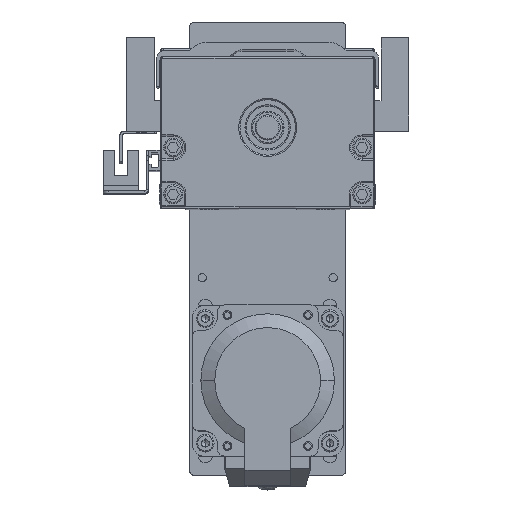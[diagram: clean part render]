
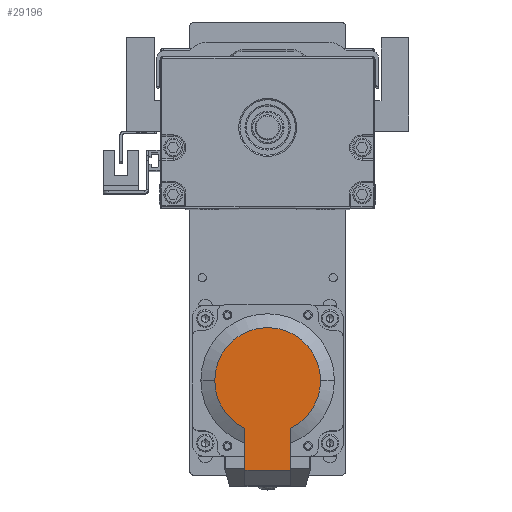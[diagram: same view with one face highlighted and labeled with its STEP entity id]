
A CAD part, top view. The second image highlights one B-rep face of the part: STEP entity #29196.
In plain terms, the highlighted planar face has unit normal (0, 0, 1).
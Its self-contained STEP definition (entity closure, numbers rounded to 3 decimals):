
#621 = CARTESIAN_POINT ( 'NONE',  ( 85.777, 12.277, 500.168 ) ) ;
#2650 = DIRECTION ( 'NONE',  ( 0., 1., 0. ) ) ;
#3344 = DIRECTION ( 'NONE',  ( 0., 1., 0. ) ) ;
#4447 = EDGE_LOOP ( 'NONE', ( #74356, #16102, #113502, #56912, #4709, #106312 ) ) ;
#4709 = ORIENTED_EDGE ( 'NONE', *, *, #12361, .T. ) ;
#10292 = CARTESIAN_POINT ( 'NONE',  ( 85.777, 12.277, 500.168 ) ) ;
#11428 = CARTESIAN_POINT ( 'NONE',  ( 121.36, 3.277, 500.168 ) ) ;
#12361 = EDGE_CURVE ( 'NONE', #91148, #106615, #26621, .T. ) ;
#16102 = ORIENTED_EDGE ( 'NONE', *, *, #72544, .T. ) ;
#20667 = PLANE ( 'NONE',  #75033 ) ;
#23945 = DIRECTION ( 'NONE',  ( 0., 0., 1. ) ) ;
#26621 = LINE ( 'NONE', #11428, #91913 ) ;
#28608 = EDGE_CURVE ( 'NONE', #75949, #43341, #111559, .T. ) ;
#29196 = ADVANCED_FACE ( 'NONE', ( #66558 ), #20667, .T. ) ;
#36371 = VECTOR ( 'NONE', #98099, 1000. ) ;
#38495 = CIRCLE ( 'NONE', #137016, 21. ) ;
#43341 = VERTEX_POINT ( 'NONE', #67389 ) ;
#43740 = DIRECTION ( 'NONE',  ( 0., 1., 0. ) ) ;
#53987 = DIRECTION ( 'NONE',  ( 1., 0., 0. ) ) ;
#54770 = DIRECTION ( 'NONE',  ( 0., 0., 1. ) ) ;
#56598 = CARTESIAN_POINT ( 'NONE',  ( 85.777, 33.277, 500.168 ) ) ;
#56912 = ORIENTED_EDGE ( 'NONE', *, *, #114890, .T. ) ;
#60635 = VERTEX_POINT ( 'NONE', #132249 ) ;
#60966 = LINE ( 'NONE', #114977, #110941 ) ;
#63366 = CARTESIAN_POINT ( 'NONE',  ( 121.36, 21.277, 500.168 ) ) ;
#65115 = AXIS2_PLACEMENT_3D ( 'NONE', #10292, #54770, #119175 ) ;
#66558 = FACE_OUTER_BOUND ( 'NONE', #4447, .T. ) ;
#67366 = CARTESIAN_POINT ( 'NONE',  ( 85.777, 12.277, 500.168 ) ) ;
#67389 = CARTESIAN_POINT ( 'NONE',  ( 85.777, -8.723, 500.168 ) ) ;
#68519 = CARTESIAN_POINT ( 'NONE',  ( 85.777, 33.277, 500.168 ) ) ;
#72544 = EDGE_CURVE ( 'NONE', #60635, #75949, #38495, .T. ) ;
#74356 = ORIENTED_EDGE ( 'NONE', *, *, #111292, .F. ) ;
#75033 = AXIS2_PLACEMENT_3D ( 'NONE', #68519, #23945, #3344 ) ;
#75949 = VERTEX_POINT ( 'NONE', #56598 ) ;
#78473 = DIRECTION ( 'NONE',  ( 0., 0., 1. ) ) ;
#87065 = CARTESIAN_POINT ( 'NONE',  ( 121.36, 21.277, 500.168 ) ) ;
#87947 = DIRECTION ( 'NONE',  ( 0., 0., 1. ) ) ;
#91148 = VERTEX_POINT ( 'NONE', #141156 ) ;
#91913 = VECTOR ( 'NONE', #53987, 1000. ) ;
#98099 = DIRECTION ( 'NONE',  ( 1., 0., 0. ) ) ;
#101770 = CIRCLE ( 'NONE', #65115, 21. ) ;
#106312 = ORIENTED_EDGE ( 'NONE', *, *, #133835, .F. ) ;
#106615 = VERTEX_POINT ( 'NONE', #107176 ) ;
#107176 = CARTESIAN_POINT ( 'NONE',  ( 121.36, 3.277, 500.168 ) ) ;
#110941 = VECTOR ( 'NONE', #136059, 1000. ) ;
#111292 = EDGE_CURVE ( 'NONE', #60635, #140897, #123947, .T. ) ;
#111559 = CIRCLE ( 'NONE', #121928, 21. ) ;
#113502 = ORIENTED_EDGE ( 'NONE', *, *, #28608, .T. ) ;
#114890 = EDGE_CURVE ( 'NONE', #43341, #91148, #101770, .T. ) ;
#114977 = CARTESIAN_POINT ( 'NONE',  ( 121.36, 21.277, 500.168 ) ) ;
#119175 = DIRECTION ( 'NONE',  ( 0., 1., 0. ) ) ;
#121928 = AXIS2_PLACEMENT_3D ( 'NONE', #621, #87947, #43740 ) ;
#123947 = LINE ( 'NONE', #87065, #36371 ) ;
#132249 = CARTESIAN_POINT ( 'NONE',  ( 104.751, 21.277, 500.168 ) ) ;
#133835 = EDGE_CURVE ( 'NONE', #140897, #106615, #60966, .T. ) ;
#136059 = DIRECTION ( 'NONE',  ( 0., -1., 0. ) ) ;
#137016 = AXIS2_PLACEMENT_3D ( 'NONE', #67366, #78473, #2650 ) ;
#140897 = VERTEX_POINT ( 'NONE', #63366 ) ;
#141156 = CARTESIAN_POINT ( 'NONE',  ( 104.751, 3.277, 500.168 ) ) ;
